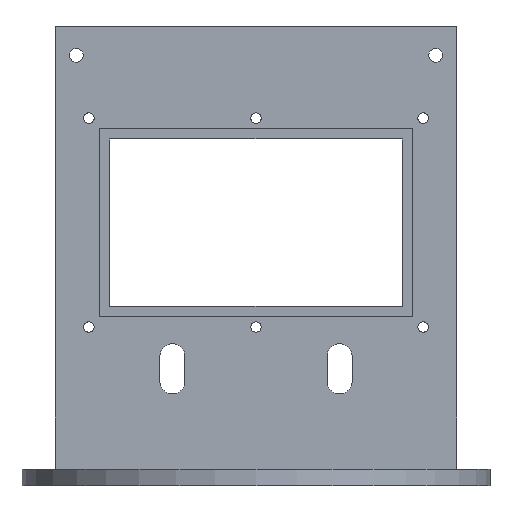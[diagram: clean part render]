
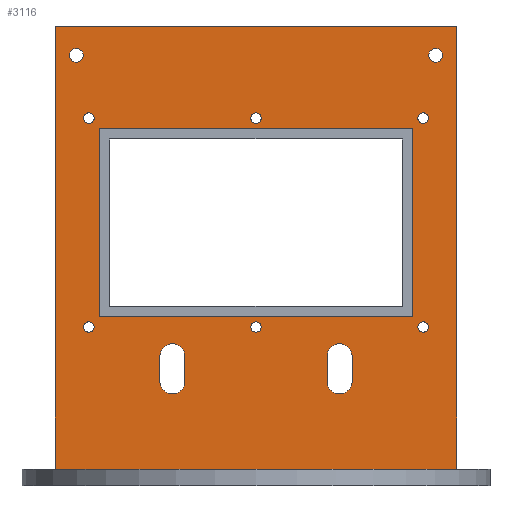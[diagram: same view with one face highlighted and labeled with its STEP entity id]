
A CAD part, front view. The second image highlights one B-rep face of the part: STEP entity #3116.
In plain terms, the highlighted planar face has unit normal (0, -1, 0).
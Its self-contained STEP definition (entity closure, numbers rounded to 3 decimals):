
#44=FACE_BOUND('',#528,.T.);
#45=FACE_BOUND('',#529,.T.);
#46=FACE_BOUND('',#530,.T.);
#47=FACE_BOUND('',#531,.T.);
#48=FACE_BOUND('',#532,.T.);
#49=FACE_BOUND('',#533,.T.);
#50=FACE_BOUND('',#534,.T.);
#51=FACE_BOUND('',#535,.T.);
#52=FACE_BOUND('',#536,.T.);
#53=FACE_BOUND('',#537,.T.);
#54=FACE_BOUND('',#538,.T.);
#131=PLANE('',#3409);
#340=FACE_OUTER_BOUND('',#527,.T.);
#527=EDGE_LOOP('',(#2456,#2457,#2458,#2459));
#528=EDGE_LOOP('',(#2460));
#529=EDGE_LOOP('',(#2461));
#530=EDGE_LOOP('',(#2462));
#531=EDGE_LOOP('',(#2463));
#532=EDGE_LOOP('',(#2464));
#533=EDGE_LOOP('',(#2465));
#534=EDGE_LOOP('',(#2466));
#535=EDGE_LOOP('',(#2467));
#536=EDGE_LOOP('',(#2468,#2469,#2470,#2471));
#537=EDGE_LOOP('',(#2472,#2473,#2474,#2475));
#538=EDGE_LOOP('',(#2476,#2477,#2478,#2479));
#784=LINE('',#4870,#1061);
#808=LINE('',#4922,#1085);
#818=LINE('',#4943,#1095);
#819=LINE('',#4944,#1096);
#820=LINE('',#4947,#1097);
#821=LINE('',#4949,#1098);
#822=LINE('',#4951,#1099);
#823=LINE('',#4952,#1100);
#824=LINE('',#4954,#1101);
#825=LINE('',#4957,#1102);
#826=LINE('',#4959,#1103);
#827=LINE('',#4962,#1104);
#1061=VECTOR('',#3962,1000.);
#1085=VECTOR('',#3998,1000.);
#1095=VECTOR('',#4014,1000.);
#1096=VECTOR('',#4015,1000.);
#1097=VECTOR('',#4016,1000.);
#1098=VECTOR('',#4017,1000.);
#1099=VECTOR('',#4018,1000.);
#1100=VECTOR('',#4019,1000.);
#1101=VECTOR('',#4020,1000.);
#1102=VECTOR('',#4023,1000.);
#1103=VECTOR('',#4024,1000.);
#1104=VECTOR('',#4027,1000.);
#1306=CIRCLE('',#3303,1.25);
#1308=CIRCLE('',#3306,1.25);
#1310=CIRCLE('',#3309,1.25);
#1312=CIRCLE('',#3312,1.25);
#1314=CIRCLE('',#3315,1.25);
#1316=CIRCLE('',#3318,1.25);
#1338=CIRCLE('',#3351,3.);
#1342=CIRCLE('',#3357,3.);
#1346=CIRCLE('',#3363,1.65);
#1348=CIRCLE('',#3366,1.65);
#1377=CIRCLE('',#3410,3.);
#1378=CIRCLE('',#3411,3.);
#1472=VERTEX_POINT('',#4618);
#1474=VERTEX_POINT('',#4624);
#1476=VERTEX_POINT('',#4630);
#1478=VERTEX_POINT('',#4636);
#1480=VERTEX_POINT('',#4642);
#1482=VERTEX_POINT('',#4648);
#1513=VERTEX_POINT('',#4727);
#1514=VERTEX_POINT('',#4729);
#1521=VERTEX_POINT('',#4745);
#1522=VERTEX_POINT('',#4747);
#1528=VERTEX_POINT('',#4762);
#1530=VERTEX_POINT('',#4768);
#1573=VERTEX_POINT('',#4868);
#1574=VERTEX_POINT('',#4869);
#1595=VERTEX_POINT('',#4919);
#1596=VERTEX_POINT('',#4921);
#1605=VERTEX_POINT('',#4945);
#1606=VERTEX_POINT('',#4946);
#1607=VERTEX_POINT('',#4948);
#1608=VERTEX_POINT('',#4950);
#1609=VERTEX_POINT('',#4953);
#1610=VERTEX_POINT('',#4955);
#1611=VERTEX_POINT('',#4958);
#1612=VERTEX_POINT('',#4960);
#1789=EDGE_CURVE('',#1472,#1472,#1306,.T.);
#1792=EDGE_CURVE('',#1474,#1474,#1308,.T.);
#1795=EDGE_CURVE('',#1476,#1476,#1310,.T.);
#1798=EDGE_CURVE('',#1478,#1478,#1312,.T.);
#1801=EDGE_CURVE('',#1480,#1480,#1314,.T.);
#1804=EDGE_CURVE('',#1482,#1482,#1316,.T.);
#1841=EDGE_CURVE('',#1513,#1514,#1338,.T.);
#1849=EDGE_CURVE('',#1521,#1522,#1342,.T.);
#1857=EDGE_CURVE('',#1528,#1528,#1346,.T.);
#1860=EDGE_CURVE('',#1530,#1530,#1348,.T.);
#1904=EDGE_CURVE('',#1573,#1574,#784,.T.);
#1932=EDGE_CURVE('',#1596,#1595,#808,.T.);
#1944=EDGE_CURVE('',#1595,#1574,#818,.T.);
#1945=EDGE_CURVE('',#1596,#1573,#819,.T.);
#1946=EDGE_CURVE('',#1605,#1606,#820,.T.);
#1947=EDGE_CURVE('',#1607,#1605,#821,.T.);
#1948=EDGE_CURVE('',#1608,#1607,#822,.T.);
#1949=EDGE_CURVE('',#1606,#1608,#823,.T.);
#1950=EDGE_CURVE('',#1609,#1513,#824,.T.);
#1951=EDGE_CURVE('',#1610,#1609,#1377,.T.);
#1952=EDGE_CURVE('',#1514,#1610,#825,.T.);
#1953=EDGE_CURVE('',#1611,#1521,#826,.T.);
#1954=EDGE_CURVE('',#1612,#1611,#1378,.T.);
#1955=EDGE_CURVE('',#1522,#1612,#827,.T.);
#2456=ORIENTED_EDGE('',*,*,#1932,.T.);
#2457=ORIENTED_EDGE('',*,*,#1944,.T.);
#2458=ORIENTED_EDGE('',*,*,#1904,.F.);
#2459=ORIENTED_EDGE('',*,*,#1945,.F.);
#2460=ORIENTED_EDGE('',*,*,#1860,.F.);
#2461=ORIENTED_EDGE('',*,*,#1857,.F.);
#2462=ORIENTED_EDGE('',*,*,#1804,.F.);
#2463=ORIENTED_EDGE('',*,*,#1801,.F.);
#2464=ORIENTED_EDGE('',*,*,#1798,.F.);
#2465=ORIENTED_EDGE('',*,*,#1795,.F.);
#2466=ORIENTED_EDGE('',*,*,#1792,.F.);
#2467=ORIENTED_EDGE('',*,*,#1789,.F.);
#2468=ORIENTED_EDGE('',*,*,#1946,.F.);
#2469=ORIENTED_EDGE('',*,*,#1947,.F.);
#2470=ORIENTED_EDGE('',*,*,#1948,.F.);
#2471=ORIENTED_EDGE('',*,*,#1949,.F.);
#2472=ORIENTED_EDGE('',*,*,#1950,.F.);
#2473=ORIENTED_EDGE('',*,*,#1951,.F.);
#2474=ORIENTED_EDGE('',*,*,#1952,.F.);
#2475=ORIENTED_EDGE('',*,*,#1841,.F.);
#2476=ORIENTED_EDGE('',*,*,#1953,.F.);
#2477=ORIENTED_EDGE('',*,*,#1954,.F.);
#2478=ORIENTED_EDGE('',*,*,#1955,.F.);
#2479=ORIENTED_EDGE('',*,*,#1849,.F.);
#3116=ADVANCED_FACE('',(#340,#44,#45,#46,#47,#48,#49,#50,#51,#52,#53,#54),
#131,.F.);
#3303=AXIS2_PLACEMENT_3D('',#4620,#3716,#3717);
#3306=AXIS2_PLACEMENT_3D('',#4626,#3723,#3724);
#3309=AXIS2_PLACEMENT_3D('',#4632,#3730,#3731);
#3312=AXIS2_PLACEMENT_3D('',#4638,#3737,#3738);
#3315=AXIS2_PLACEMENT_3D('',#4644,#3744,#3745);
#3318=AXIS2_PLACEMENT_3D('',#4650,#3751,#3752);
#3351=AXIS2_PLACEMENT_3D('',#4730,#3832,#3833);
#3357=AXIS2_PLACEMENT_3D('',#4748,#3848,#3849);
#3363=AXIS2_PLACEMENT_3D('',#4764,#3864,#3865);
#3366=AXIS2_PLACEMENT_3D('',#4770,#3871,#3872);
#3409=AXIS2_PLACEMENT_3D('',#4942,#4012,#4013);
#3410=AXIS2_PLACEMENT_3D('',#4956,#4021,#4022);
#3411=AXIS2_PLACEMENT_3D('',#4961,#4025,#4026);
#3716=DIRECTION('center_axis',(0.,-1.,0.));
#3717=DIRECTION('ref_axis',(0.,0.,-1.));
#3723=DIRECTION('center_axis',(0.,-1.,0.));
#3724=DIRECTION('ref_axis',(0.,0.,-1.));
#3730=DIRECTION('center_axis',(0.,-1.,0.));
#3731=DIRECTION('ref_axis',(0.,0.,-1.));
#3737=DIRECTION('center_axis',(0.,-1.,0.));
#3738=DIRECTION('ref_axis',(0.,0.,-1.));
#3744=DIRECTION('center_axis',(0.,-1.,0.));
#3745=DIRECTION('ref_axis',(0.,0.,-1.));
#3751=DIRECTION('center_axis',(0.,-1.,0.));
#3752=DIRECTION('ref_axis',(0.,0.,-1.));
#3832=DIRECTION('center_axis',(0.,-1.,0.));
#3833=DIRECTION('ref_axis',(0.,0.,-1.));
#3848=DIRECTION('center_axis',(0.,-1.,0.));
#3849=DIRECTION('ref_axis',(0.,0.,1.));
#3864=DIRECTION('center_axis',(0.,-1.,0.));
#3865=DIRECTION('ref_axis',(0.,0.,-1.));
#3871=DIRECTION('center_axis',(0.,-1.,0.));
#3872=DIRECTION('ref_axis',(0.,0.,-1.));
#3962=DIRECTION('',(0.,0.,-1.));
#3998=DIRECTION('',(0.,0.,-1.));
#4012=DIRECTION('center_axis',(0.,1.,0.));
#4013=DIRECTION('ref_axis',(0.,0.,1.));
#4014=DIRECTION('',(1.,0.,0.));
#4015=DIRECTION('',(1.,0.,0.));
#4016=DIRECTION('',(-1.,0.,0.));
#4017=DIRECTION('',(0.,0.,1.));
#4018=DIRECTION('',(1.,0.,0.));
#4019=DIRECTION('',(0.,0.,-1.));
#4020=DIRECTION('',(0.,0.,-1.));
#4021=DIRECTION('center_axis',(0.,-1.,0.));
#4022=DIRECTION('ref_axis',(0.,0.,-1.));
#4023=DIRECTION('',(0.,0.,1.));
#4024=DIRECTION('',(0.,0.,-1.));
#4025=DIRECTION('center_axis',(0.,-1.,0.));
#4026=DIRECTION('ref_axis',(0.,0.,1.));
#4027=DIRECTION('',(0.,0.,1.));
#4618=CARTESIAN_POINT('',(-40.,-20.,89.25));
#4620=CARTESIAN_POINT('Origin',(-40.,-20.,88.));
#4624=CARTESIAN_POINT('',(-40.,-20.,39.25));
#4626=CARTESIAN_POINT('Origin',(-40.,-20.,38.));
#4630=CARTESIAN_POINT('',(0.,-20.,89.25));
#4632=CARTESIAN_POINT('Origin',(0.,-20.,88.));
#4636=CARTESIAN_POINT('',(0.,-20.,39.25));
#4638=CARTESIAN_POINT('Origin',(0.,-20.,38.));
#4642=CARTESIAN_POINT('',(40.,-20.,89.25));
#4644=CARTESIAN_POINT('Origin',(40.,-20.,88.));
#4648=CARTESIAN_POINT('',(40.,-20.,39.25));
#4650=CARTESIAN_POINT('Origin',(40.,-20.,38.));
#4727=CARTESIAN_POINT('',(17.,-20.,25.));
#4729=CARTESIAN_POINT('',(23.,-20.,25.));
#4730=CARTESIAN_POINT('Origin',(20.,-20.,25.));
#4745=CARTESIAN_POINT('',(-23.,-20.,25.));
#4747=CARTESIAN_POINT('',(-17.,-20.,25.));
#4748=CARTESIAN_POINT('Origin',(-20.,-20.,25.));
#4762=CARTESIAN_POINT('',(43.,-20.,104.65));
#4764=CARTESIAN_POINT('Origin',(43.,-20.,103.));
#4768=CARTESIAN_POINT('',(-43.,-20.,104.65));
#4770=CARTESIAN_POINT('Origin',(-43.,-20.,103.));
#4868=CARTESIAN_POINT('',(48.,-20.,110.));
#4869=CARTESIAN_POINT('',(48.,-20.,4.));
#4870=CARTESIAN_POINT('',(48.,-20.,110.));
#4919=CARTESIAN_POINT('',(-48.,-20.,4.));
#4921=CARTESIAN_POINT('',(-48.,-20.,110.));
#4922=CARTESIAN_POINT('',(-48.,-20.,110.));
#4942=CARTESIAN_POINT('Origin',(-48.,-20.,110.));
#4943=CARTESIAN_POINT('',(48.,-20.,4.));
#4944=CARTESIAN_POINT('',(-48.,-20.,110.));
#4945=CARTESIAN_POINT('',(37.5,-20.,85.5));
#4946=CARTESIAN_POINT('',(-37.5,-20.,85.5));
#4947=CARTESIAN_POINT('',(37.5,-20.,85.5));
#4948=CARTESIAN_POINT('',(37.5,-20.,40.5));
#4949=CARTESIAN_POINT('',(37.5,-20.,40.5));
#4950=CARTESIAN_POINT('',(-37.5,-20.,40.5));
#4951=CARTESIAN_POINT('',(37.5,-20.,40.5));
#4952=CARTESIAN_POINT('',(-37.5,-20.,40.5));
#4953=CARTESIAN_POINT('',(17.,-20.,31.));
#4954=CARTESIAN_POINT('',(17.,-20.,31.));
#4955=CARTESIAN_POINT('',(23.,-20.,31.));
#4956=CARTESIAN_POINT('Origin',(20.,-20.,31.));
#4957=CARTESIAN_POINT('',(23.,-20.,31.));
#4958=CARTESIAN_POINT('',(-23.,-20.,31.));
#4959=CARTESIAN_POINT('',(-23.,-20.,31.));
#4960=CARTESIAN_POINT('',(-17.,-20.,31.));
#4961=CARTESIAN_POINT('Origin',(-20.,-20.,31.));
#4962=CARTESIAN_POINT('',(-17.,-20.,31.));
